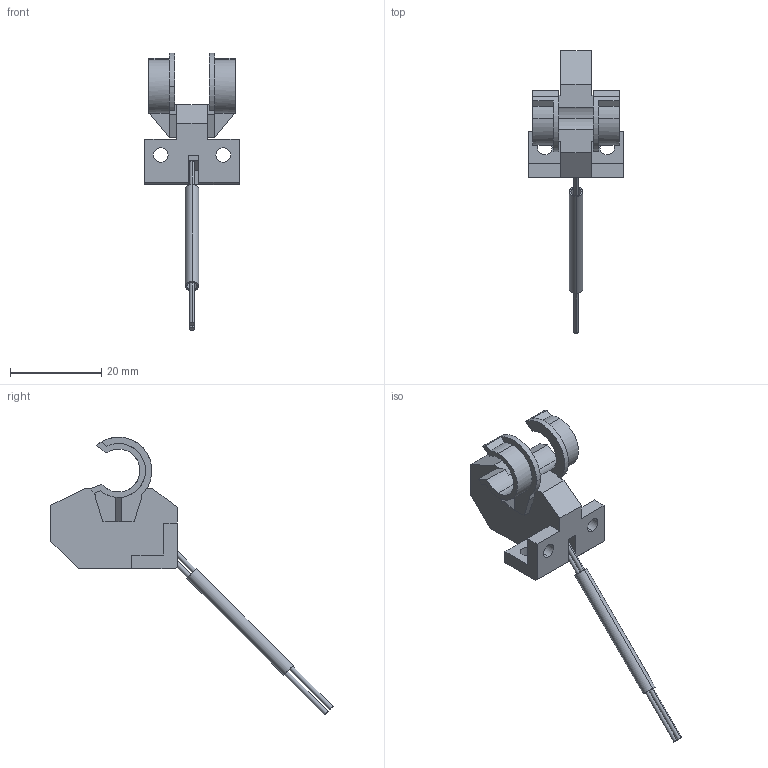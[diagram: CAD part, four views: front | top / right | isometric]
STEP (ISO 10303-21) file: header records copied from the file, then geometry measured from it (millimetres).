
FILE_DESCRIPTION (( 'STEP AP203' ), '1' );
FILE_NAME ('fd-bef95.STEP', '2020-09-24T01:37:41', ( '' ), ( '' ), 'SwSTEP 2.0', 'SolidWorks 2017', '' );
FILE_SCHEMA (( 'CONFIG_CONTROL_DESIGN' ));
Length unit declared in the file: millimetre
Products named in the file (1): fd-bef95
Bounding box: 20.7 x 61.79 x 60.79 mm (x, y, z)
Volume: 4347.8 mm3; surface area: 3735.5 mm2
Topology: 1 solids, 1 shells, 98 faces, 284 edges, 188 vertices
Faces by surface type: plane 67, cylinder 31
Entity records: 3335 total; most frequent: CARTESIAN_POINT 583, ORIENTED_EDGE 568, DIRECTION 556, EDGE_CURVE 284, VECTOR 202, LINE 202, VERTEX_POINT 188, AXIS2_PLACEMENT_3D 177
